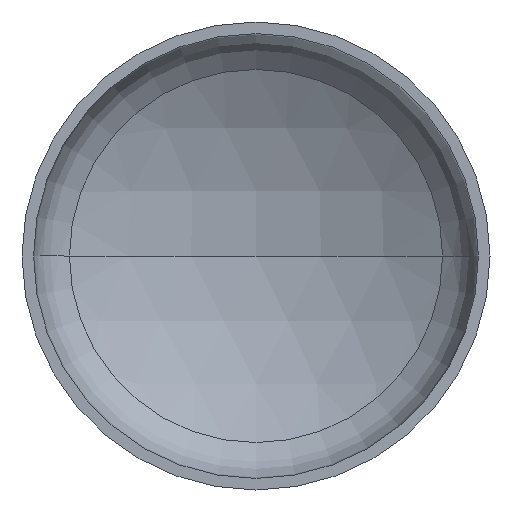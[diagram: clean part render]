
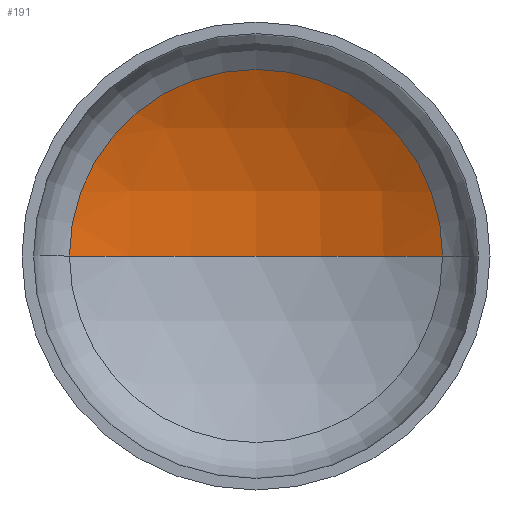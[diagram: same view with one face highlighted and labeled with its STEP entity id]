
A CAD part, front view. The second image highlights one B-rep face of the part: STEP entity #191.
In plain terms, the highlighted spherical face has radius 1520 mm.
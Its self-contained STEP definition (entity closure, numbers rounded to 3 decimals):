
#4 = DIRECTION ( 'NONE',  ( -1., 0., 0. ) ) ;
#9 = DIRECTION ( 'NONE',  ( 0., 0., 1. ) ) ;
#16 = CARTESIAN_POINT ( 'NONE',  ( 0., -916.363, 0. ) ) ;
#27 = AXIS2_PLACEMENT_3D ( 'NONE', #250, #254, #273 ) ;
#28 = EDGE_LOOP ( 'NONE', ( #158, #114, #129 ) ) ;
#34 = AXIS2_PLACEMENT_3D ( 'NONE', #16, #9, #195 ) ;
#38 = AXIS2_PLACEMENT_3D ( 'NONE', #255, #400, #4 ) ;
#39 = AXIS2_PLACEMENT_3D ( 'NONE', #215, #196, #200 ) ;
#49 = VERTEX_POINT ( 'NONE', #354 ) ;
#84 = EDGE_CURVE ( 'NONE', #320, #49, #411, .T. ) ;
#85 = EDGE_CURVE ( 'NONE', #106, #320, #245, .T. ) ;
#99 = EDGE_CURVE ( 'NONE', #106, #49, #165, .T. ) ;
#106 = VERTEX_POINT ( 'NONE', #295 ) ;
#114 = ORIENTED_EDGE ( 'NONE', *, *, #85, .T. ) ;
#129 = ORIENTED_EDGE ( 'NONE', *, *, #84, .T. ) ;
#158 = ORIENTED_EDGE ( 'NONE', *, *, #99, .F. ) ;
#160 = SPHERICAL_SURFACE ( 'NONE', #27, 1520. ) ;
#165 = CIRCLE ( 'NONE', #34, 1520. ) ;
#180 = CARTESIAN_POINT ( 'NONE',  ( 757.528, 401.419, 0. ) ) ;
#191 = ADVANCED_FACE ( 'NONE', ( #289 ), #160, .F. ) ;
#195 = DIRECTION ( 'NONE',  ( 1., 0., 0. ) ) ;
#196 = DIRECTION ( 'NONE',  ( 0., -1., 0. ) ) ;
#200 = DIRECTION ( 'NONE',  ( 1., 0., 0. ) ) ;
#215 = CARTESIAN_POINT ( 'NONE',  ( 0., 401.419, 0. ) ) ;
#245 = CIRCLE ( 'NONE', #38, 1520. ) ;
#250 = CARTESIAN_POINT ( 'NONE',  ( 0., -916.363, 0. ) ) ;
#254 = DIRECTION ( 'NONE',  ( 0., 0., -1. ) ) ;
#255 = CARTESIAN_POINT ( 'NONE',  ( 0., -916.363, 0. ) ) ;
#273 = DIRECTION ( 'NONE',  ( -1., 0., 0. ) ) ;
#289 = FACE_OUTER_BOUND ( 'NONE', #28, .T. ) ;
#295 = CARTESIAN_POINT ( 'NONE',  ( 0., 603.637, 0. ) ) ;
#320 = VERTEX_POINT ( 'NONE', #180 ) ;
#354 = CARTESIAN_POINT ( 'NONE',  ( -757.528, 401.419, 0. ) ) ;
#400 = DIRECTION ( 'NONE',  ( 0., 0., -1. ) ) ;
#411 = CIRCLE ( 'NONE', #39, 757.528 ) ;
